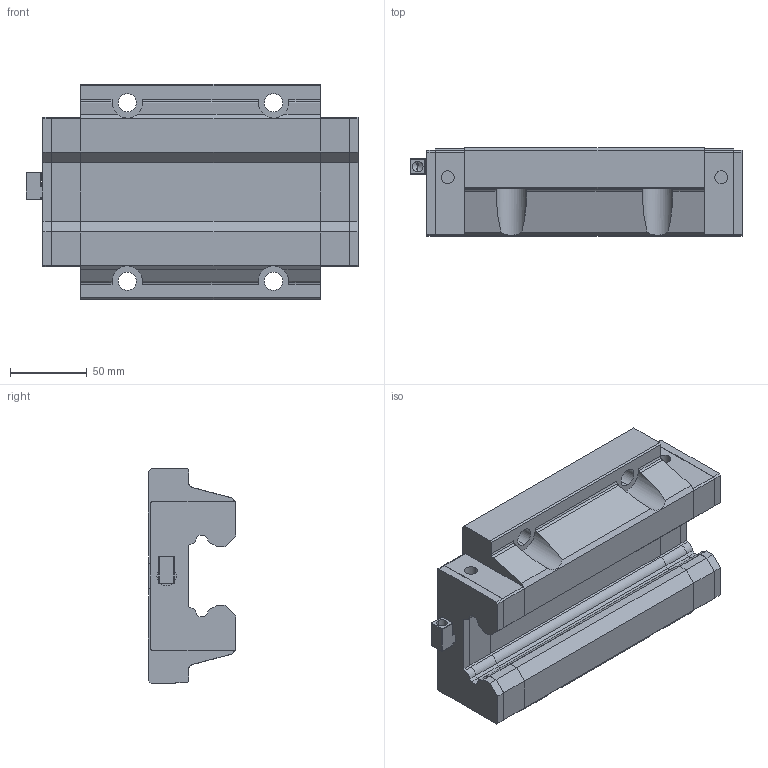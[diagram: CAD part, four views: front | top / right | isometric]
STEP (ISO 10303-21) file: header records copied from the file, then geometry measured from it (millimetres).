
FILE_DESCRIPTION (( 'STEP AP203' ), '1' );
FILE_NAME ('SGW55HA.STEP', '2025-06-27T06:30:39', ( 'Owner' ), ( 'Organization' ), 'SwSTEP 2.0', 'SolidWorks 2020', '' );
FILE_SCHEMA (( 'CONFIG_CONTROL_DESIGN' ));
Length unit declared in the file: millimetre
Products named in the file (1): SGW55HA
Bounding box: 215.8 x 57 x 140 mm (x, y, z)
Volume: 1043486.6 mm3; surface area: 139002.9 mm2
Topology: 7 solids, 7 shells, 383 faces, 996 edges, 641 vertices
Faces by surface type: plane 273, cylinder 98, cone 12
Entity records: 11773 total; most frequent: CARTESIAN_POINT 2193, ORIENTED_EDGE 1988, DIRECTION 1940, EDGE_CURVE 994, VECTOR 764, LINE 764, VERTEX_POINT 641, AXIS2_PLACEMENT_3D 588
